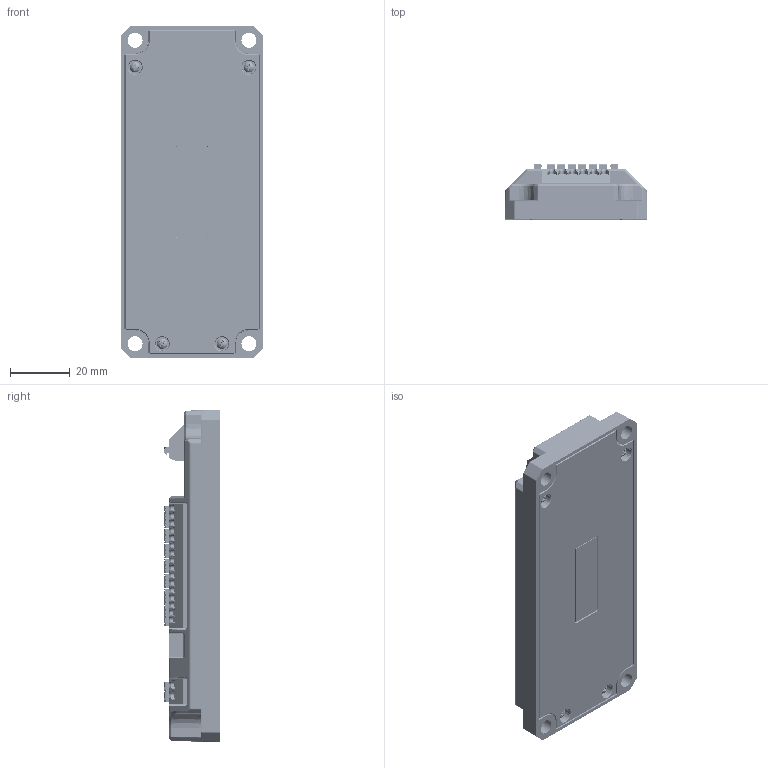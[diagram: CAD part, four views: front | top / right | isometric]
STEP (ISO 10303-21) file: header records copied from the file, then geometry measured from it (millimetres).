
FILE_DESCRIPTION(/* description */ (''),/* implementation_level */ '2;1');
FILE_NAME(/* name */ 'Pnuematic Hub .step',/* time_stamp */ '2022-12-29T16:11:57-08:00',/* author */ (''),/* organization */ (''),/* preprocessor_version */ 'ST-DEVELOPER v19.2',/* originating_system */ 'Autodesk Translation Framework v11.17.0.187',/* authorisation */ '');
FILE_SCHEMA (('AUTOMOTIVE_DESIGN { 1 0 10303 214 3 1 1 }'));
Products named in the file (1): Pnuematic Hub
Bounding box: 47.62 x 18.63 x 111.12 mm (x, y, z)
Volume: 43702.4 mm3; surface area: 68451.8 mm2
Topology: 238 solids, 238 shells, 8546 faces, 23441 edges, 15457 vertices
Faces by surface type: plane 4773, bspline 2008, cylinder 1212, cone 533, torus 16, sphere 4
Full cylindrical faces by diameter (mm): 0.5 x2, 0.66 x1, 0.7 x10, 0.991 x11, 1.016 x42, 1.2 x24, 1.5 x37, 1.6 x4, 2.2 x4, 2.5 x1, 3 x1, 3.5 x4, 5 x4
Entity records: 294449 total; most frequent: CARTESIAN_POINT 84217, ORIENTED_EDGE 46862, DIRECTION 38295, EDGE_CURVE 23431, LINE 15541, VECTOR 15541, VERTEX_POINT 15457, AXIS2_PLACEMENT_3D 11377
